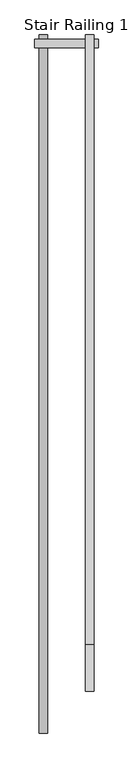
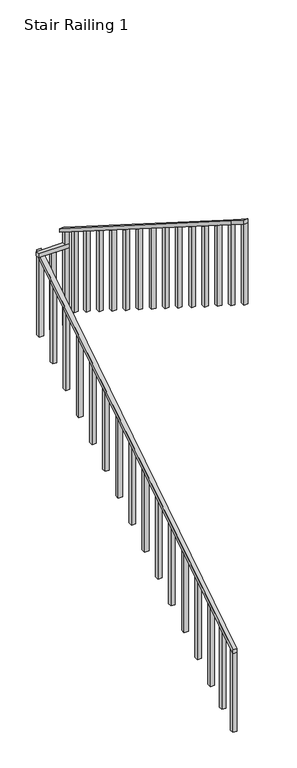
"""IFC4 building model written with IfcOpenShell, lengths in millimetres: railing geometry, Stair Railing 1."""

from ifc_helpers import new_model, si_unit, frame, origin, place, context, project, spatial, polyline, outline, extrude, source, transform, mapped, element, save


def stair_railing_1_6e4a725b(model_context):
    return source(origin(), model_context, "Body", "SweptSolid", [
        extrude(outline(polyline([(42831.8085139, 3898.4903226), (42831.8085139, 3847.6903226), (38672.0798985, 1192.9806452), (38672.0798985, 1243.7806452), (42831.8085139, 3898.4903226)])), frame((-114078.690902, 0.0, 0.0), z_axis=(1.0, 0.0, 0.0), x_axis=(0.0, 1.0, 0.0)), (0.0, 0.0, 1.0), 50.8),
        extrude(outline(polyline([(38722.8798985, 1225.4008495), (38722.8798985, 176.9806452), (38672.0798985, 176.9806452), (38672.0798985, 1192.9806452), (38722.8798985, 1225.4008495)])), frame((-114078.690902, 0.0, 0.0), z_axis=(1.0, 0.0, 0.0), x_axis=(0.0, 1.0, 0.0)), (0.0, 0.0, 1.0), 50.8),
        extrude(outline(polyline([(38961.2442062, 1377.5232817), (38961.2442062, 329.1030774), (38910.4442062, 329.1030774), (38910.4442062, 1345.1030774), (38961.2442062, 1377.5232817)])), frame((-114078.690902, 0.0, 0.0), z_axis=(1.0, 0.0, 0.0), x_axis=(0.0, 1.0, 0.0)), (0.0, 0.0, 1.0), 50.8),
        extrude(outline(polyline([(39199.6085139, 1529.645714), (39199.6085139, 481.2255097), (39148.8085139, 481.2255097), (39148.8085139, 1497.2255097), (39199.6085139, 1529.645714)])), frame((-114078.690902, 0.0, 0.0), z_axis=(1.0, 0.0, 0.0), x_axis=(0.0, 1.0, 0.0)), (0.0, 0.0, 1.0), 50.8),
        extrude(outline(polyline([(39479.0085139, 1707.9568377), (39479.0085139, 659.5366334), (39428.2085139, 659.5366334), (39428.2085139, 1675.5366334), (39479.0085139, 1707.9568377)])), frame((-114078.690902, 0.0, 0.0), z_axis=(1.0, 0.0, 0.0), x_axis=(0.0, 1.0, 0.0)), (0.0, 0.0, 1.0), 50.8),
        extrude(outline(polyline([(39758.4085139, 1886.2679614), (39758.4085139, 837.8477571), (39707.6085139, 837.8477571), (39707.6085139, 1853.8477571), (39758.4085139, 1886.2679614)])), frame((-114078.690902, 0.0, 0.0), z_axis=(1.0, 0.0, 0.0), x_axis=(0.0, 1.0, 0.0)), (0.0, 0.0, 1.0), 50.8),
        extrude(outline(polyline([(40037.8085139, 2064.5790852), (40037.8085139, 1016.1588809), (39987.0085139, 1016.1588809), (39987.0085139, 2032.1588809), (40037.8085139, 2064.5790852)])), frame((-114078.690902, 0.0, 0.0), z_axis=(1.0, 0.0, 0.0), x_axis=(0.0, 1.0, 0.0)), (0.0, 0.0, 1.0), 50.8),
        extrude(outline(polyline([(40317.2085139, 2242.8902089), (40317.2085139, 1194.4700046), (40266.4085139, 1194.4700046), (40266.4085139, 2210.4700046), (40317.2085139, 2242.8902089)])), frame((-114078.690902, 0.0, 0.0), z_axis=(1.0, 0.0, 0.0), x_axis=(0.0, 1.0, 0.0)), (0.0, 0.0, 1.0), 50.8),
        extrude(outline(polyline([(40596.6085139, 2421.2013327), (40596.6085139, 1372.7811284), (40545.8085139, 1372.7811284), (40545.8085139, 2388.7811284), (40596.6085139, 2421.2013327)])), frame((-114078.690902, 0.0, 0.0), z_axis=(1.0, 0.0, 0.0), x_axis=(0.0, 1.0, 0.0)), (0.0, 0.0, 1.0), 50.8),
        extrude(outline(polyline([(40876.0085139, 2599.5124564), (40876.0085139, 1551.0922521), (40825.2085139, 1551.0922521), (40825.2085139, 2567.0922521), (40876.0085139, 2599.5124564)])), frame((-114078.690902, 0.0, 0.0), z_axis=(1.0, 0.0, 0.0), x_axis=(0.0, 1.0, 0.0)), (0.0, 0.0, 1.0), 50.8),
        extrude(outline(polyline([(41155.4085139, 2777.8235801), (41155.4085139, 1729.4033758), (41104.6085139, 1729.4033758), (41104.6085139, 2745.4033758), (41155.4085139, 2777.8235801)])), frame((-114078.690902, 0.0, 0.0), z_axis=(1.0, 0.0, 0.0), x_axis=(0.0, 1.0, 0.0)), (0.0, 0.0, 1.0), 50.8),
        extrude(outline(polyline([(41434.8085139, 2956.1347039), (41434.8085139, 1907.7144996), (41384.0085139, 1907.7144996), (41384.0085139, 2923.7144996), (41434.8085139, 2956.1347039)])), frame((-114078.690902, 0.0, 0.0), z_axis=(1.0, 0.0, 0.0), x_axis=(0.0, 1.0, 0.0)), (0.0, 0.0, 1.0), 50.8),
        extrude(outline(polyline([(41714.2085139, 3134.4458276), (41714.2085139, 2086.0256233), (41663.4085139, 2086.0256233), (41663.4085139, 3102.0256233), (41714.2085139, 3134.4458276)])), frame((-114078.690902, 0.0, 0.0), z_axis=(1.0, 0.0, 0.0), x_axis=(0.0, 1.0, 0.0)), (0.0, 0.0, 1.0), 50.8),
        extrude(outline(polyline([(41993.6085139, 3312.7569514), (41993.6085139, 2264.336747), (41942.8085139, 2264.336747), (41942.8085139, 3280.336747), (41993.6085139, 3312.7569514)])), frame((-114078.690902, 0.0, 0.0), z_axis=(1.0, 0.0, 0.0), x_axis=(0.0, 1.0, 0.0)), (0.0, 0.0, 1.0), 50.8),
        extrude(outline(polyline([(42273.0085139, 3491.0680751), (42273.0085139, 2442.6478708), (42222.2085139, 2442.6478708), (42222.2085139, 3458.6478708), (42273.0085139, 3491.0680751)])), frame((-114078.690902, 0.0, 0.0), z_axis=(1.0, 0.0, 0.0), x_axis=(0.0, 1.0, 0.0)), (0.0, 0.0, 1.0), 50.8),
        extrude(outline(polyline([(42552.4085139, 3669.3791988), (42552.4085139, 2620.9589945), (42501.6085139, 2620.9589945), (42501.6085139, 3636.9589945), (42552.4085139, 3669.3791988)])), frame((-114078.690902, 0.0, 0.0), z_axis=(1.0, 0.0, 0.0), x_axis=(0.0, 1.0, 0.0)), (0.0, 0.0, 1.0), 50.8),
        extrude(outline(polyline([(42831.8085139, 3847.6903226), (42831.8085139, 2799.2701183), (42781.0085139, 2799.2701183), (42781.0085139, 3815.2701183), (42831.8085139, 3847.6903226)])), frame((-114078.690902, 0.0, 0.0), z_axis=(1.0, 0.0, 0.0), x_axis=(0.0, 1.0, 0.0)), (0.0, 0.0, 1.0), 50.8),
        extrude(outline(polyline([(-113725.0492148, 42806.4085139), (-113725.0492148, 42755.6085139), (-114104.090902, 42755.6085139), (-114104.090902, 42806.4085139), (-113725.0492148, 42806.4085139)])), frame((0.0, 0.0, 3847.6903226), z_axis=(0.0, 0.0, 1.0), x_axis=(1.0, 0.0, 0.0)), (0.0, 0.0, 1.0), 50.8),
        extrude(outline(polyline([(-113939.9700584, 42806.4085139), (-113889.1700584, 42806.4085139), (-113889.1700584, 42755.6085139), (-113939.9700584, 42755.6085139), (-113939.9700584, 42806.4085139)])), frame((0.0, 0.0, 2831.6903226), z_axis=(0.0, 0.0, 1.0), x_axis=(1.0, 0.0, 0.0)), (0.0, 0.0, 1.0), 1016.0),
        extrude(outline(polyline([(-113775.8492148, 42806.4085139), (-113725.0492148, 42806.4085139), (-113725.0492148, 42755.6085139), (-113775.8492148, 42755.6085139), (-113775.8492148, 42806.4085139)])), frame((0.0, 0.0, 2831.6903226), z_axis=(0.0, 0.0, 1.0), x_axis=(1.0, 0.0, 0.0)), (0.0, 0.0, 1.0), 1243.7806452),
        extrude(outline(polyline([(39199.6085139, 6325.4193548), (39199.6085139, 6376.2193548), (42831.8085139, 4075.4709677), (42831.8085139, 4024.6709677), (39199.6085139, 6325.4193548)])), frame((-113801.2492148, 0.0, 0.0), z_axis=(1.0, 0.0, 0.0), x_axis=(0.0, 1.0, 0.0)), (0.0, 0.0, 1.0), 50.8),
        extrude(outline(polyline([(42577.8085139, 4185.5624633), (42577.8085139, 3169.5624633), (42527.0085139, 3169.5624633), (42527.0085139, 4217.7407625), (42577.8085139, 4185.5624633)])), frame((-113801.2492148, 0.0, 0.0), z_axis=(1.0, 0.0, 0.0), x_axis=(0.0, 1.0, 0.0)), (0.0, 0.0, 1.0), 50.8),
        extrude(outline(polyline([(42323.8085139, 4346.4539589), (42323.8085139, 3330.4539589), (42273.0085139, 3330.4539589), (42273.0085139, 4378.6322581), (42323.8085139, 4346.4539589)])), frame((-113801.2492148, 0.0, 0.0), z_axis=(1.0, 0.0, 0.0), x_axis=(0.0, 1.0, 0.0)), (0.0, 0.0, 1.0), 50.8),
        extrude(outline(polyline([(42044.4085139, 4523.4346041), (42044.4085139, 3507.4346041), (41993.6085139, 3507.4346041), (41993.6085139, 4555.6129032), (42044.4085139, 4523.4346041)])), frame((-113801.2492148, 0.0, 0.0), z_axis=(1.0, 0.0, 0.0), x_axis=(0.0, 1.0, 0.0)), (0.0, 0.0, 1.0), 50.8),
        extrude(outline(polyline([(41765.0085139, 4700.4152493), (41765.0085139, 3684.4152493), (41714.2085139, 3684.4152493), (41714.2085139, 4732.5935484), (41765.0085139, 4700.4152493)])), frame((-113801.2492148, 0.0, 0.0), z_axis=(1.0, 0.0, 0.0), x_axis=(0.0, 1.0, 0.0)), (0.0, 0.0, 1.0), 50.8),
        extrude(outline(polyline([(41485.6085139, 4877.3958944), (41485.6085139, 3861.3958944), (41434.8085139, 3861.3958944), (41434.8085139, 4909.5741935), (41485.6085139, 4877.3958944)])), frame((-113801.2492148, 0.0, 0.0), z_axis=(1.0, 0.0, 0.0), x_axis=(0.0, 1.0, 0.0)), (0.0, 0.0, 1.0), 50.8),
        extrude(outline(polyline([(41206.2085139, 5054.3765396), (41206.2085139, 4038.3765396), (41155.4085139, 4038.3765396), (41155.4085139, 5086.5548387), (41206.2085139, 5054.3765396)])), frame((-113801.2492148, 0.0, 0.0), z_axis=(1.0, 0.0, 0.0), x_axis=(0.0, 1.0, 0.0)), (0.0, 0.0, 1.0), 50.8),
        extrude(outline(polyline([(40926.8085139, 5231.3571848), (40926.8085139, 4215.3571848), (40876.0085139, 4215.3571848), (40876.0085139, 5263.5354839), (40926.8085139, 5231.3571848)])), frame((-113801.2492148, 0.0, 0.0), z_axis=(1.0, 0.0, 0.0), x_axis=(0.0, 1.0, 0.0)), (0.0, 0.0, 1.0), 50.8),
        extrude(outline(polyline([(40647.4085139, 5408.3378299), (40647.4085139, 4392.3378299), (40596.6085139, 4392.3378299), (40596.6085139, 5440.516129), (40647.4085139, 5408.3378299)])), frame((-113801.2492148, 0.0, 0.0), z_axis=(1.0, 0.0, 0.0), x_axis=(0.0, 1.0, 0.0)), (0.0, 0.0, 1.0), 50.8),
        extrude(outline(polyline([(40368.0085139, 5585.3184751), (40368.0085139, 4569.3184751), (40317.2085139, 4569.3184751), (40317.2085139, 5617.4967742), (40368.0085139, 5585.3184751)])), frame((-113801.2492148, 0.0, 0.0), z_axis=(1.0, 0.0, 0.0), x_axis=(0.0, 1.0, 0.0)), (0.0, 0.0, 1.0), 50.8),
        extrude(outline(polyline([(40088.6085139, 5762.2991202), (40088.6085139, 4746.2991202), (40037.8085139, 4746.2991202), (40037.8085139, 5794.4774194), (40088.6085139, 5762.2991202)])), frame((-113801.2492148, 0.0, 0.0), z_axis=(1.0, 0.0, 0.0), x_axis=(0.0, 1.0, 0.0)), (0.0, 0.0, 1.0), 50.8),
        extrude(outline(polyline([(39809.2085139, 5939.2797654), (39809.2085139, 4923.2797654), (39758.4085139, 4923.2797654), (39758.4085139, 5971.4580645), (39809.2085139, 5939.2797654)])), frame((-113801.2492148, 0.0, 0.0), z_axis=(1.0, 0.0, 0.0), x_axis=(0.0, 1.0, 0.0)), (0.0, 0.0, 1.0), 50.8),
        extrude(outline(polyline([(39529.8085139, 6116.2604106), (39529.8085139, 5100.2604106), (39479.0085139, 5100.2604106), (39479.0085139, 6148.4387097), (39529.8085139, 6116.2604106)])), frame((-113801.2492148, 0.0, 0.0), z_axis=(1.0, 0.0, 0.0), x_axis=(0.0, 1.0, 0.0)), (0.0, 0.0, 1.0), 50.8),
        extrude(outline(polyline([(39250.4085139, 6293.2410557), (39250.4085139, 5277.2410557), (39199.6085139, 5277.2410557), (39199.6085139, 6325.4193548), (39250.4085139, 6293.2410557)])), frame((-113801.2492148, 0.0, 0.0), z_axis=(1.0, 0.0, 0.0), x_axis=(0.0, 1.0, 0.0)), (0.0, 0.0, 1.0), 50.8),
        extrude(outline(polyline([(38920.2085139, 6502.4), (38920.2085139, 6553.2), (39199.6085139, 6376.2193548), (39199.6085139, 6325.4193548), (38920.2085139, 6502.4)])), frame((-113801.2492148, 0.0, 0.0), z_axis=(1.0, 0.0, 0.0), x_axis=(0.0, 1.0, 0.0)), (0.0, 0.0, 1.0), 50.8),
        extrude(outline(polyline([(38971.0085139, 6470.2217009), (38971.0085139, 5454.2217009), (38920.2085139, 5454.2217009), (38920.2085139, 6502.4), (38971.0085139, 6470.2217009)])), frame((-113801.2492148, 0.0, 0.0), z_axis=(1.0, 0.0, 0.0), x_axis=(0.0, 1.0, 0.0)), (0.0, 0.0, 1.0), 50.8),
    ])


if __name__ == "__main__":
    model = new_model("IFC4")
    model_context = context("Model", 3, world=origin())
    ifc_project = project(units=[si_unit("LENGTHUNIT", "METRE", prefix="MILLI")], contexts=[model_context])
    site = spatial("IfcSite", under=ifc_project)
    building = spatial("IfcBuilding", under=site)
    placement = place(None, origin())
    stair_railing_1_shape = stair_railing_1_6e4a725b(model_context)
    element("IfcRailing", 1, ObjectType="Stair Railing 1", at=placement, inside=building, context=model_context, shape_type="MappedRepresentation", body=[
        mapped(stair_railing_1_shape, transform((0.0, 0.0, 0.0), x_axis=(1.0, 0.0, 0.0), y_axis=(0.0, 1.0, 0.0), z_axis=(0.0, 0.0, 1.0))),
    ])
    save(model, "model.ifc")
